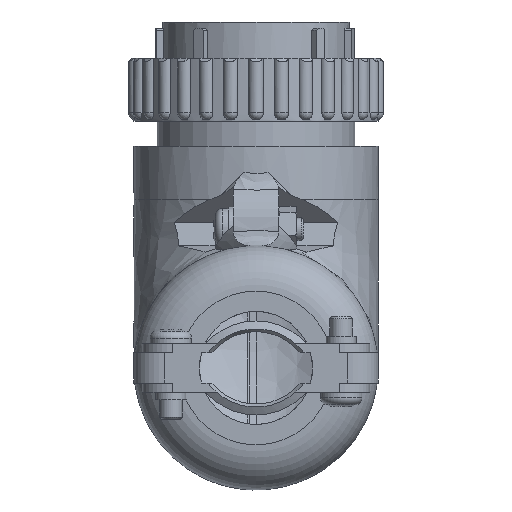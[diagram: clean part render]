
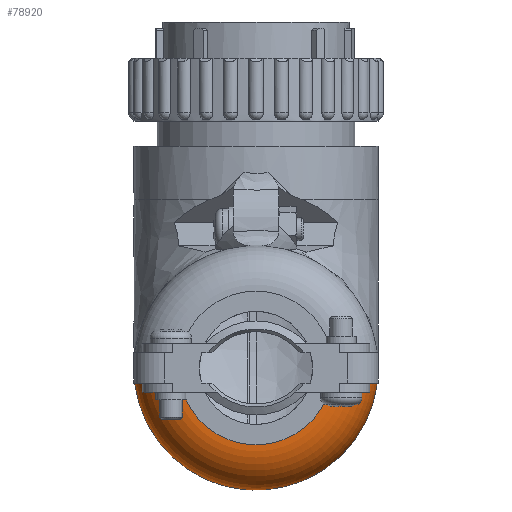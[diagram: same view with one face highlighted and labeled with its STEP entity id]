
A CAD part, front view. The second image highlights one B-rep face of the part: STEP entity #78920.
In plain terms, the highlighted toroidal (fillet/blend) face has major radius 10.2 mm and minor radius 6 mm.
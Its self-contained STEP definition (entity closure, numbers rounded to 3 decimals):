
#1301 = CIRCLE ( 'NONE', #97668, 16.2 ) ;
#3708 = CARTESIAN_POINT ( 'NONE',  ( -12.681, -26.403, -47.9 ) ) ;
#8440 = CARTESIAN_POINT ( 'NONE',  ( 14.567, -24.984, -47.9 ) ) ;
#9408 = B_SPLINE_CURVE_WITH_KNOTS ( 'NONE', 3,
 ( #64661, #39232, #101659, #75183, #56081, #3708, #109124, #84929, #94260, #31378, #22431, #49014, #13830, #111463, #95003, #58001, #32521, #49400, #94629, #41153, #67351, #103185 ),
 .UNSPECIFIED., .F., .F.,
 ( 4, 2, 2, 2, 2, 2, 2, 2, 2, 2, 4 ),
 ( 0.009, 0.01, 0.011, 0.012, 0.013, 0.013, 0.014, 0.016, 0.016, 0.017, 0.018 ),
 .UNSPECIFIED. ) ;
#9588 = CARTESIAN_POINT ( 'NONE',  ( 11.947, -26.7, -47.9 ) ) ;
#10755 = ORIENTED_EDGE ( 'NONE', *, *, #42775, .T. ) ;
#12674 = DIRECTION ( 'NONE',  ( 0., 1., 0. ) ) ;
#13393 = VERTEX_POINT ( 'NONE', #115249 ) ;
#13483 = B_SPLINE_CURVE_WITH_KNOTS ( 'NONE', 3,
 ( #62754, #53382, #98205, #97420, #17073, #44028, #63126, #71340, #106431, #115784, #8440, #52997, #97821, #17464, #44799, #17834, #18215, #9588, #18607, #26390, #35374, #44406 ),
 .UNSPECIFIED., .F., .F.,
 ( 4, 2, 2, 2, 2, 2, 2, 2, 2, 2, 4 ),
 ( 0.033, 0.035, 0.035, 0.036, 0.037, 0.038, 0.039, 0.04, 0.04, 0.042, 0.043 ),
 .UNSPECIFIED. ) ;
#13830 = CARTESIAN_POINT ( 'NONE',  ( -14.821, -24.68, -47.9 ) ) ;
#14552 = EDGE_CURVE ( 'NONE', #38883, #25652, #9408, .T. ) ;
#17073 = CARTESIAN_POINT ( 'NONE',  ( 15.871, -22.563, -47.9 ) ) ;
#17464 = CARTESIAN_POINT ( 'NONE',  ( 13.199, -26.11, -47.9 ) ) ;
#17834 = CARTESIAN_POINT ( 'NONE',  ( 12.678, -26.394, -47.9 ) ) ;
#18215 = CARTESIAN_POINT ( 'NONE',  ( 12.496, -26.478, -47.9 ) ) ;
#18599 = CARTESIAN_POINT ( 'NONE',  ( 0., -21., -45.9 ) ) ;
#18607 = CARTESIAN_POINT ( 'NONE',  ( 11.57, -26.812, -47.9 ) ) ;
#19847 = DIRECTION ( 'NONE',  ( 0., 1., 0. ) ) ;
#22431 = CARTESIAN_POINT ( 'NONE',  ( -14.146, -25.398, -47.9 ) ) ;
#25652 = VERTEX_POINT ( 'NONE', #78546 ) ;
#26390 = CARTESIAN_POINT ( 'NONE',  ( 10.795, -26.962, -47.9 ) ) ;
#26908 = ORIENTED_EDGE ( 'NONE', *, *, #112760, .F. ) ;
#27679 = ORIENTED_EDGE ( 'NONE', *, *, #14552, .T. ) ;
#29705 = DIRECTION ( 'NONE',  ( 0., 0., -1. ) ) ;
#31378 = CARTESIAN_POINT ( 'NONE',  ( -13.999, -25.529, -47.9 ) ) ;
#32521 = CARTESIAN_POINT ( 'NONE',  ( -15.754, -22.943, -47.9 ) ) ;
#32617 = VERTEX_POINT ( 'NONE', #32635 ) ;
#32635 = CARTESIAN_POINT ( 'NONE',  ( 16.076, -21., -47.9 ) ) ;
#35374 = CARTESIAN_POINT ( 'NONE',  ( 10.396, -27., -47.9 ) ) ;
#36267 = DIRECTION ( 'NONE',  ( 0., 1., 0. ) ) ;
#37004 = CARTESIAN_POINT ( 'NONE',  ( 0., -27., -45.9 ) ) ;
#38883 = VERTEX_POINT ( 'NONE', #61832 ) ;
#39232 = CARTESIAN_POINT ( 'NONE',  ( -10.397, -27., -47.9 ) ) ;
#41153 = CARTESIAN_POINT ( 'NONE',  ( -16.037, -21.787, -47.9 ) ) ;
#42775 = EDGE_CURVE ( 'NONE', #32617, #13393, #13483, .T. ) ;
#42909 = TOROIDAL_SURFACE ( 'NONE', #87291, 10.2, 6. ) ;
#44028 = CARTESIAN_POINT ( 'NONE',  ( 15.754, -22.941, -47.9 ) ) ;
#44406 = CARTESIAN_POINT ( 'NONE',  ( 10.002, -27., -47.9 ) ) ;
#44799 = CARTESIAN_POINT ( 'NONE',  ( 13.029, -26.21, -47.9 ) ) ;
#45679 = DIRECTION ( 'NONE',  ( 0., 0., -1. ) ) ;
#46020 = DIRECTION ( 'NONE',  ( 0., 0., -1. ) ) ;
#49014 = CARTESIAN_POINT ( 'NONE',  ( -14.567, -24.984, -47.9 ) ) ;
#49400 = CARTESIAN_POINT ( 'NONE',  ( -15.871, -22.563, -47.9 ) ) ;
#52997 = CARTESIAN_POINT ( 'NONE',  ( 13.999, -25.541, -47.9 ) ) ;
#53382 = CARTESIAN_POINT ( 'NONE',  ( 16.076, -21.395, -47.9 ) ) ;
#56081 = CARTESIAN_POINT ( 'NONE',  ( -11.95, -26.699, -47.9 ) ) ;
#56240 = ORIENTED_EDGE ( 'NONE', *, *, #107694, .T. ) ;
#58001 = CARTESIAN_POINT ( 'NONE',  ( -15.686, -23.129, -47.9 ) ) ;
#61832 = CARTESIAN_POINT ( 'NONE',  ( -10.002, -27., -47.9 ) ) ;
#62754 = CARTESIAN_POINT ( 'NONE',  ( 16.076, -21., -47.9 ) ) ;
#63126 = CARTESIAN_POINT ( 'NONE',  ( 15.687, -23.126, -47.9 ) ) ;
#64661 = CARTESIAN_POINT ( 'NONE',  ( -10.002, -27., -47.9 ) ) ;
#67351 = CARTESIAN_POINT ( 'NONE',  ( -16.076, -21.396, -47.9 ) ) ;
#70533 = EDGE_LOOP ( 'NONE', ( #26908, #10755, #56240, #27679 ) ) ;
#71340 = CARTESIAN_POINT ( 'NONE',  ( 15.458, -23.67, -47.9 ) ) ;
#75183 = CARTESIAN_POINT ( 'NONE',  ( -11.564, -26.813, -47.9 ) ) ;
#78546 = CARTESIAN_POINT ( 'NONE',  ( -16.076, -21., -47.9 ) ) ;
#78920 = ADVANCED_FACE ( 'NONE', ( #100075 ), #42909, .T. ) ;
#81203 = CARTESIAN_POINT ( 'NONE',  ( 0., -21., -45.9 ) ) ;
#84929 = CARTESIAN_POINT ( 'NONE',  ( -13.528, -25.895, -47.9 ) ) ;
#85587 = CIRCLE ( 'NONE', #113973, 10.2 ) ;
#87291 = AXIS2_PLACEMENT_3D ( 'NONE', #18599, #12674, #29705 ) ;
#94260 = CARTESIAN_POINT ( 'NONE',  ( -13.69, -25.777, -47.9 ) ) ;
#94629 = CARTESIAN_POINT ( 'NONE',  ( -15.92, -22.369, -47.9 ) ) ;
#95003 = CARTESIAN_POINT ( 'NONE',  ( -15.457, -23.674, -47.9 ) ) ;
#97420 = CARTESIAN_POINT ( 'NONE',  ( 15.92, -22.368, -47.9 ) ) ;
#97668 = AXIS2_PLACEMENT_3D ( 'NONE', #81203, #36267, #45679 ) ;
#97821 = CARTESIAN_POINT ( 'NONE',  ( 13.693, -25.787, -47.9 ) ) ;
#98205 = CARTESIAN_POINT ( 'NONE',  ( 16.037, -21.786, -47.9 ) ) ;
#100075 = FACE_OUTER_BOUND ( 'NONE', #70533, .T. ) ;
#101659 = CARTESIAN_POINT ( 'NONE',  ( -10.789, -26.963, -47.9 ) ) ;
#103185 = CARTESIAN_POINT ( 'NONE',  ( -16.076, -21., -47.9 ) ) ;
#106431 = CARTESIAN_POINT ( 'NONE',  ( 15.27, -24.018, -47.9 ) ) ;
#107694 = EDGE_CURVE ( 'NONE', #13393, #38883, #85587, .T. ) ;
#109124 = CARTESIAN_POINT ( 'NONE',  ( -13.03, -26.221, -47.9 ) ) ;
#111463 = CARTESIAN_POINT ( 'NONE',  ( -15.269, -24.02, -47.9 ) ) ;
#112760 = EDGE_CURVE ( 'NONE', #32617, #25652, #1301, .T. ) ;
#113973 = AXIS2_PLACEMENT_3D ( 'NONE', #37004, #19847, #46020 ) ;
#115249 = CARTESIAN_POINT ( 'NONE',  ( 10.002, -27., -47.9 ) ) ;
#115784 = CARTESIAN_POINT ( 'NONE',  ( 14.823, -24.678, -47.9 ) ) ;
